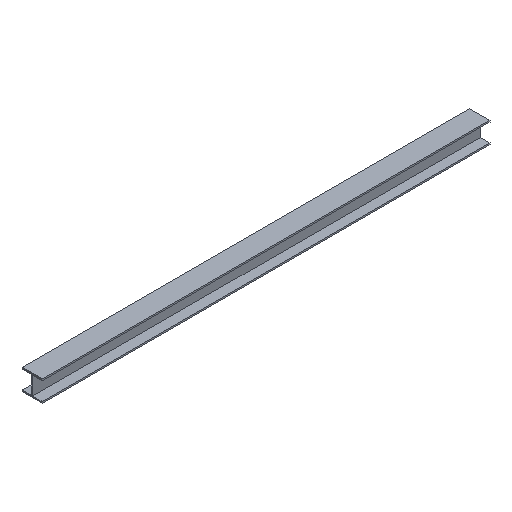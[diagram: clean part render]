
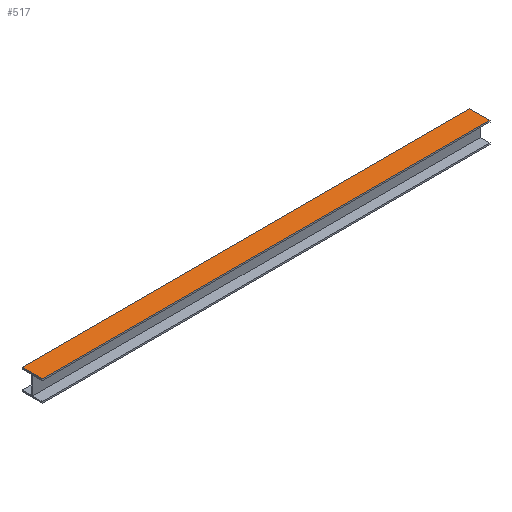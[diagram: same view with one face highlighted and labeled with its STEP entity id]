
A CAD part, isometric view. The second image highlights one B-rep face of the part: STEP entity #517.
In plain terms, the highlighted planar face has unit normal (0, 0, 1).
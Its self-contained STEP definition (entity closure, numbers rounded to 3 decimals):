
#72 = PLANE('',#73);
#73 = AXIS2_PLACEMENT_3D('',#74,#75,#76);
#74 = CARTESIAN_POINT('',(1715.,-60.,569.));
#75 = DIRECTION('',(1.,0.,0.));
#76 = DIRECTION('',(-0.,0.,1.));
#126 = PLANE('',#127);
#127 = AXIS2_PLACEMENT_3D('',#128,#129,#130);
#128 = CARTESIAN_POINT('',(-1715.,-60.,569.));
#129 = DIRECTION('',(1.,0.,0.));
#130 = DIRECTION('',(-0.,0.,1.));
#409 = PLANE('',#410);
#410 = AXIS2_PLACEMENT_3D('',#411,#412,#413);
#411 = CARTESIAN_POINT('',(-1715.,17.,638.4));
#412 = DIRECTION('',(0.,-1.,0.));
#413 = DIRECTION('',(0.,0.,1.));
#447 = VERTEX_POINT('',#448);
#448 = CARTESIAN_POINT('',(1715.,17.,650.));
#469 = EDGE_CURVE('',#470,#447,#472,.T.);
#470 = VERTEX_POINT('',#471);
#471 = CARTESIAN_POINT('',(-1715.,17.,650.));
#472 = SURFACE_CURVE('',#473,(#477,#484),.PCURVE_S1.);
#473 = LINE('',#474,#475);
#474 = CARTESIAN_POINT('',(-1715.,17.,650.));
#475 = VECTOR('',#476,1.);
#476 = DIRECTION('',(1.,0.,0.));
#477 = PCURVE('',#409,#478);
#478 = DEFINITIONAL_REPRESENTATION('',(#479),#483);
#479 = LINE('',#480,#481);
#480 = CARTESIAN_POINT('',(11.6,0.));
#481 = VECTOR('',#482,1.);
#482 = DIRECTION('',(0.,-1.));
#483 = ( GEOMETRIC_REPRESENTATION_CONTEXT(2) 
PARAMETRIC_REPRESENTATION_CONTEXT() REPRESENTATION_CONTEXT('2D SPACE',''
  ) );
#484 = PCURVE('',#485,#490);
#485 = PLANE('',#486);
#486 = AXIS2_PLACEMENT_3D('',#487,#488,#489);
#487 = CARTESIAN_POINT('',(-1715.,17.,650.));
#488 = DIRECTION('',(0.,0.,-1.));
#489 = DIRECTION('',(0.,-1.,0.));
#490 = DEFINITIONAL_REPRESENTATION('',(#491),#495);
#491 = LINE('',#492,#493);
#492 = CARTESIAN_POINT('',(0.,-0.));
#493 = VECTOR('',#494,1.);
#494 = DIRECTION('',(0.,-1.));
#495 = ( GEOMETRIC_REPRESENTATION_CONTEXT(2) 
PARAMETRIC_REPRESENTATION_CONTEXT() REPRESENTATION_CONTEXT('2D SPACE',''
  ) );
#517 = ADVANCED_FACE('',(#518),#485,.F.);
#518 = FACE_BOUND('',#519,.F.);
#519 = EDGE_LOOP('',(#520,#521,#544,#572));
#520 = ORIENTED_EDGE('',*,*,#469,.T.);
#521 = ORIENTED_EDGE('',*,*,#522,.T.);
#522 = EDGE_CURVE('',#447,#523,#525,.T.);
#523 = VERTEX_POINT('',#524);
#524 = CARTESIAN_POINT('',(1715.,-137.,650.));
#525 = SURFACE_CURVE('',#526,(#530,#537),.PCURVE_S1.);
#526 = LINE('',#527,#528);
#527 = CARTESIAN_POINT('',(1715.,17.,650.));
#528 = VECTOR('',#529,1.);
#529 = DIRECTION('',(0.,-1.,0.));
#530 = PCURVE('',#485,#531);
#531 = DEFINITIONAL_REPRESENTATION('',(#532),#536);
#532 = LINE('',#533,#534);
#533 = CARTESIAN_POINT('',(0.,-3430.));
#534 = VECTOR('',#535,1.);
#535 = DIRECTION('',(1.,0.));
#536 = ( GEOMETRIC_REPRESENTATION_CONTEXT(2) 
PARAMETRIC_REPRESENTATION_CONTEXT() REPRESENTATION_CONTEXT('2D SPACE',''
  ) );
#537 = PCURVE('',#72,#538);
#538 = DEFINITIONAL_REPRESENTATION('',(#539),#543);
#539 = LINE('',#540,#541);
#540 = CARTESIAN_POINT('',(81.,-77.));
#541 = VECTOR('',#542,1.);
#542 = DIRECTION('',(0.,1.));
#543 = ( GEOMETRIC_REPRESENTATION_CONTEXT(2) 
PARAMETRIC_REPRESENTATION_CONTEXT() REPRESENTATION_CONTEXT('2D SPACE',''
  ) );
#544 = ORIENTED_EDGE('',*,*,#545,.F.);
#545 = EDGE_CURVE('',#546,#523,#548,.T.);
#546 = VERTEX_POINT('',#547);
#547 = CARTESIAN_POINT('',(-1715.,-137.,650.));
#548 = SURFACE_CURVE('',#549,(#553,#560),.PCURVE_S1.);
#549 = LINE('',#550,#551);
#550 = CARTESIAN_POINT('',(-1715.,-137.,650.));
#551 = VECTOR('',#552,1.);
#552 = DIRECTION('',(1.,0.,0.));
#553 = PCURVE('',#485,#554);
#554 = DEFINITIONAL_REPRESENTATION('',(#555),#559);
#555 = LINE('',#556,#557);
#556 = CARTESIAN_POINT('',(154.,0.));
#557 = VECTOR('',#558,1.);
#558 = DIRECTION('',(0.,-1.));
#559 = ( GEOMETRIC_REPRESENTATION_CONTEXT(2) 
PARAMETRIC_REPRESENTATION_CONTEXT() REPRESENTATION_CONTEXT('2D SPACE',''
  ) );
#560 = PCURVE('',#561,#566);
#561 = PLANE('',#562);
#562 = AXIS2_PLACEMENT_3D('',#563,#564,#565);
#563 = CARTESIAN_POINT('',(-1715.,-137.,650.));
#564 = DIRECTION('',(-0.,1.,0.));
#565 = DIRECTION('',(0.,0.,-1.));
#566 = DEFINITIONAL_REPRESENTATION('',(#567),#571);
#567 = LINE('',#568,#569);
#568 = CARTESIAN_POINT('',(0.,0.));
#569 = VECTOR('',#570,1.);
#570 = DIRECTION('',(0.,-1.));
#571 = ( GEOMETRIC_REPRESENTATION_CONTEXT(2) 
PARAMETRIC_REPRESENTATION_CONTEXT() REPRESENTATION_CONTEXT('2D SPACE',''
  ) );
#572 = ORIENTED_EDGE('',*,*,#573,.F.);
#573 = EDGE_CURVE('',#470,#546,#574,.T.);
#574 = SURFACE_CURVE('',#575,(#579,#586),.PCURVE_S1.);
#575 = LINE('',#576,#577);
#576 = CARTESIAN_POINT('',(-1715.,17.,650.));
#577 = VECTOR('',#578,1.);
#578 = DIRECTION('',(0.,-1.,0.));
#579 = PCURVE('',#485,#580);
#580 = DEFINITIONAL_REPRESENTATION('',(#581),#585);
#581 = LINE('',#582,#583);
#582 = CARTESIAN_POINT('',(0.,-0.));
#583 = VECTOR('',#584,1.);
#584 = DIRECTION('',(1.,0.));
#585 = ( GEOMETRIC_REPRESENTATION_CONTEXT(2) 
PARAMETRIC_REPRESENTATION_CONTEXT() REPRESENTATION_CONTEXT('2D SPACE',''
  ) );
#586 = PCURVE('',#126,#587);
#587 = DEFINITIONAL_REPRESENTATION('',(#588),#592);
#588 = LINE('',#589,#590);
#589 = CARTESIAN_POINT('',(81.,-77.));
#590 = VECTOR('',#591,1.);
#591 = DIRECTION('',(0.,1.));
#592 = ( GEOMETRIC_REPRESENTATION_CONTEXT(2) 
PARAMETRIC_REPRESENTATION_CONTEXT() REPRESENTATION_CONTEXT('2D SPACE',''
  ) );
